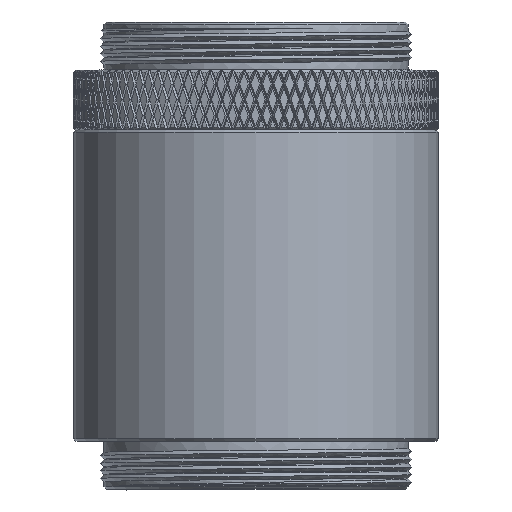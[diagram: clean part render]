
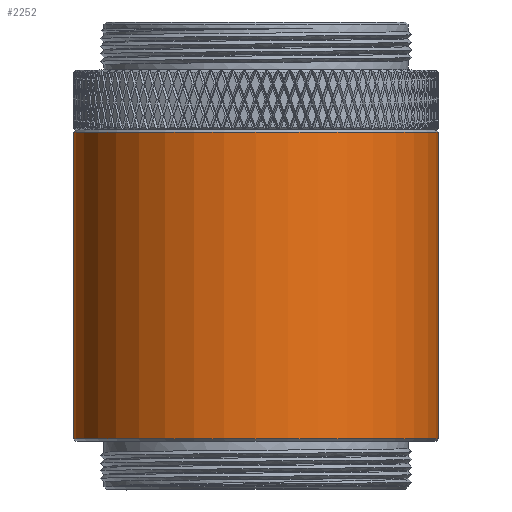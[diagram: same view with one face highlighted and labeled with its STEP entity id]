
A CAD part, top view. The second image highlights one B-rep face of the part: STEP entity #2252.
In plain terms, the highlighted cylindrical face has radius 15.25 mm (diameter 30.5 mm), a partial arc.
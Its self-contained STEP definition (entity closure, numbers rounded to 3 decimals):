
#944=DIRECTION('',(0.,1.,0.));
#945=VECTOR('',#944,25.6);
#946=CARTESIAN_POINT('',(15.25,0.2,
0.));
#947=LINE('',#946,#945);
#948=CARTESIAN_POINT('',(0.,25.8,0.));
#949=DIRECTION('',(0.,1.,0.));
#950=DIRECTION('',(-1.,0.,0.));
#951=AXIS2_PLACEMENT_3D('',#948,#949,#950);
#953=CARTESIAN_POINT('',(0.,0.2,0.));
#954=DIRECTION('',(0.,-1.,0.));
#955=DIRECTION('',(1.,0.,0.));
#956=AXIS2_PLACEMENT_3D('',#953,#954,#955);
#958=DIRECTION('',(0.,1.,0.));
#959=VECTOR('',#958,25.6);
#960=CARTESIAN_POINT('',(-15.25,0.2,
0.));
#961=LINE('',#960,#959);
#1088=CARTESIAN_POINT('',(-15.25,25.8,0.));
#1089=CARTESIAN_POINT('',(15.25,25.8,0.));
#1090=VERTEX_POINT('',#1088);
#1091=VERTEX_POINT('',#1089);
#1096=CARTESIAN_POINT('',(15.25,0.2,0.));
#1097=CARTESIAN_POINT('',(-15.25,0.2,0.));
#1098=VERTEX_POINT('',#1096);
#1099=VERTEX_POINT('',#1097);
#2240=CARTESIAN_POINT('',(0.,0.,0.));
#2241=DIRECTION('',(0.,1.,0.));
#2242=DIRECTION('',(1.,0.,0.));
#2243=AXIS2_PLACEMENT_3D('',#2240,#2241,#2242);
#2244=CYLINDRICAL_SURFACE('',#2243,15.25);
#2245=ORIENTED_EDGE('',*,*,#2205,.T.);
#2246=ORIENTED_EDGE('',*,*,#2235,.F.);
#2248=ORIENTED_EDGE('',*,*,#2247,.T.);
#2249=ORIENTED_EDGE('',*,*,#2231,.T.);
#2250=EDGE_LOOP('',(#2245,#2246,#2248,#2249));
#2251=FACE_OUTER_BOUND('',#2250,.F.);
#2252=ADVANCED_FACE('',(#2251),#2244,.T.);
#952=CIRCLE('',#951,15.25);
#957=CIRCLE('',#956,15.25);
#2205=EDGE_CURVE('',#1090,#1091,#952,.T.);
#2231=EDGE_CURVE('',#1099,#1090,#961,.T.);
#2235=EDGE_CURVE('',#1098,#1091,#947,.T.);
#2247=EDGE_CURVE('',#1098,#1099,#957,.T.);
